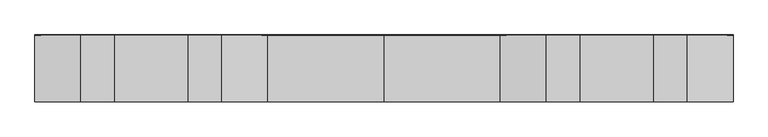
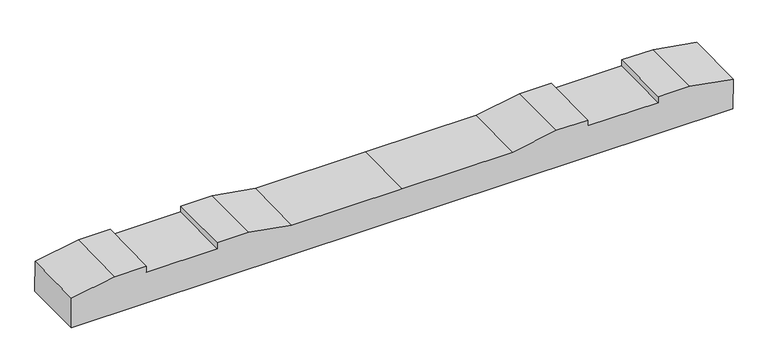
"""IFC4 building model written with IfcOpenShell, lengths in millimetres: proxy geometry, 轨枕-立面角度 : 轨枕-立面角度."""

from ifc_helpers import new_model, si_unit, frame, origin, place, context, project, spatial, polyline, outline, extrude, source, transform, mapped, element, save


def generic_models_18f15232(model_context):
    return source(origin(), model_context, "Body", "SweptSolid", [
        extrude(outline(polyline([(0.0, 0.0), (2099.7669328, 0.0), (2099.7669328, -100.020689), (1961.8834664, -124.5), (1861.8834664, -124.5), (1861.8834664, -104.5), (1637.8834664, -104.5), (1637.8834664, -124.5), (1537.8834664, -124.5), (1399.8834664, -100.0), (1049.8834664, -100.0), (699.8834664, -100.0), (561.8834664, -124.5), (461.8834664, -124.5), (461.8834664, -104.5), (237.8834664, -104.5), (237.8834664, -124.5), (137.8834664, -124.5), (0.0, -100.020689), (0.0, 0.0)])), frame((-1049.8834664, -98.9554552, -105.4896578), z_axis=(0.0, 0.9999505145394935, 0.00994828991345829), x_axis=(1.0, 0.0, 0.0)), (0.0, 0.0, 1.0), 200.0),
    ])


if __name__ == "__main__":
    model = new_model("IFC4")
    model_context = context("Model", 3, world=origin())
    ifc_project = project(units=[si_unit("LENGTHUNIT", "METRE", prefix="MILLI")], contexts=[model_context])
    site = spatial("IfcSite", under=ifc_project)
    building = spatial("IfcBuilding", under=site)
    placement = place(None, origin())
    generic_models_shape = generic_models_18f15232(model_context)
    element("IfcBuildingElementProxy", 1, Name="轨枕-立面角度 : 轨枕-立面角度", ObjectType="轨枕-立面角度 : 轨枕-立面角度", at=placement, inside=building, context=model_context, shape_type="MappedRepresentation", body=[
        mapped(generic_models_shape, transform((0.0, 0.0, 0.0), x_axis=(1.0, 0.0, 0.0), y_axis=(0.0, 1.0, 0.0), z_axis=(0.0, 0.0, 1.0))),
    ])
    save(model, "model.ifc")
